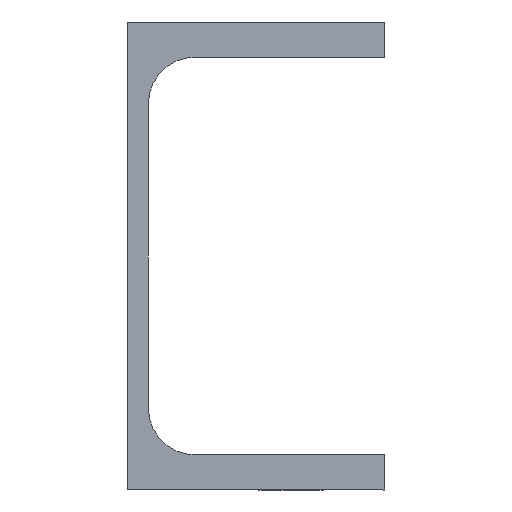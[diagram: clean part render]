
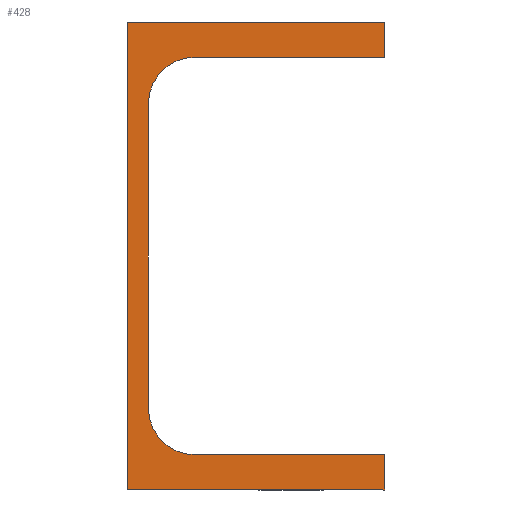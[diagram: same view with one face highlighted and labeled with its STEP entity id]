
A CAD part, left-side view. The second image highlights one B-rep face of the part: STEP entity #428.
In plain terms, the highlighted planar face has unit normal (-1, 0, 0).
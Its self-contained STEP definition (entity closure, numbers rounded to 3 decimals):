
#42 = ORIENTED_EDGE ( 'NONE', *, *, #3356, .T. ) ;
#76 = VERTEX_POINT ( 'NONE', #1217 ) ;
#135 = CARTESIAN_POINT ( 'NONE',  ( -55., 1945., 2290. ) ) ;
#176 = VERTEX_POINT ( 'NONE', #2306 ) ;
#178 = EDGE_CURVE ( 'NONE', #3060, #176, #196, .T. ) ;
#196 = LINE ( 'NONE', #3713, #4438 ) ;
#255 = LINE ( 'NONE', #1227, #2134 ) ;
#338 = ORIENTED_EDGE ( 'NONE', *, *, #1102, .T. ) ;
#349 = CARTESIAN_POINT ( 'NONE',  ( -55., 1985.5, 2372.5 ) ) ;
#428 = ADVANCED_FACE ( 'NONE', ( #4398 ), #4104, .T. ) ;
#512 = CARTESIAN_POINT ( 'NONE',  ( -55., 1945., 2297.5 ) ) ;
#585 = DIRECTION ( 'NONE',  ( 0., 1., 0. ) ) ;
#778 = VERTEX_POINT ( 'NONE', #4027 ) ;
#809 = CIRCLE ( 'NONE', #4011, 10. ) ;
#909 = CARTESIAN_POINT ( 'NONE',  ( -55., -32.5, 2385. ) ) ;
#949 = LINE ( 'NONE', #512, #1547 ) ;
#1049 = VERTEX_POINT ( 'NONE', #1364 ) ;
#1064 = VERTEX_POINT ( 'NONE', #1708 ) ;
#1102 = EDGE_CURVE ( 'NONE', #3202, #3060, #1243, .T. ) ;
#1108 = EDGE_CURVE ( 'NONE', #76, #1049, #1833, .T. ) ;
#1211 = DIRECTION ( 'NONE',  ( -1., 0., 0. ) ) ;
#1217 = CARTESIAN_POINT ( 'NONE',  ( -55., 1985.5, 2297.5 ) ) ;
#1227 = CARTESIAN_POINT ( 'NONE',  ( -55., 1995.5, 2307.5 ) ) ;
#1243 = LINE ( 'NONE', #1906, #3031 ) ;
#1273 = CARTESIAN_POINT ( 'NONE',  ( -55., 2000., 2290. ) ) ;
#1274 = ORIENTED_EDGE ( 'NONE', *, *, #2567, .T. ) ;
#1364 = CARTESIAN_POINT ( 'NONE',  ( -55., 1995.5, 2307.5 ) ) ;
#1547 = VECTOR ( 'NONE', #1619, 1000. ) ;
#1583 = CARTESIAN_POINT ( 'NONE',  ( -55., 1985.5, 2307.5 ) ) ;
#1619 = DIRECTION ( 'NONE',  ( 0., 1., 0. ) ) ;
#1636 = LINE ( 'NONE', #1273, #2365 ) ;
#1662 = CARTESIAN_POINT ( 'NONE',  ( -55., 1945., 2382.5 ) ) ;
#1708 = CARTESIAN_POINT ( 'NONE',  ( -55., 1995.5, 2372.5 ) ) ;
#1732 = DIRECTION ( 'NONE',  ( 1., 0., 0. ) ) ;
#1795 = ORIENTED_EDGE ( 'NONE', *, *, #1108, .T. ) ;
#1833 = CIRCLE ( 'NONE', #3851, 10. ) ;
#1887 = EDGE_LOOP ( 'NONE', ( #2386, #2892, #42, #1274, #4290, #2666, #1795, #3988, #4012, #338 ) ) ;
#1898 = EDGE_CURVE ( 'NONE', #176, #2498, #2343, .T. ) ;
#1906 = CARTESIAN_POINT ( 'NONE',  ( -55., 1985.5, 2382.5 ) ) ;
#1915 = VECTOR ( 'NONE', #2184, 1000. ) ;
#2092 = EDGE_CURVE ( 'NONE', #1049, #1064, #255, .T. ) ;
#2134 = VECTOR ( 'NONE', #3018, 1000. ) ;
#2184 = DIRECTION ( 'NONE',  ( 0., 0., 1. ) ) ;
#2306 = CARTESIAN_POINT ( 'NONE',  ( -55., 1945., 2390. ) ) ;
#2317 = CARTESIAN_POINT ( 'NONE',  ( -55., 1945., 2297.5 ) ) ;
#2343 = LINE ( 'NONE', #3053, #4080 ) ;
#2346 = DIRECTION ( 'NONE',  ( 0., 0., 1. ) ) ;
#2365 = VECTOR ( 'NONE', #2715, 1000. ) ;
#2386 = ORIENTED_EDGE ( 'NONE', *, *, #178, .T. ) ;
#2451 = CARTESIAN_POINT ( 'NONE',  ( -55., 1985.5, 2382.5 ) ) ;
#2498 = VERTEX_POINT ( 'NONE', #2966 ) ;
#2567 = EDGE_CURVE ( 'NONE', #778, #3017, #1636, .T. ) ;
#2583 = AXIS2_PLACEMENT_3D ( 'NONE', #909, #1211, #2346 ) ;
#2618 = DIRECTION ( 'NONE',  ( 1., 0., 0. ) ) ;
#2666 = ORIENTED_EDGE ( 'NONE', *, *, #4103, .T. ) ;
#2715 = DIRECTION ( 'NONE',  ( 0., -1., 0. ) ) ;
#2892 = ORIENTED_EDGE ( 'NONE', *, *, #1898, .T. ) ;
#2932 = DIRECTION ( 'NONE',  ( 0., 0., -1. ) ) ;
#2966 = CARTESIAN_POINT ( 'NONE',  ( -55., 2000., 2390. ) ) ;
#2981 = CARTESIAN_POINT ( 'NONE',  ( -55., 2000., 2390. ) ) ;
#3017 = VERTEX_POINT ( 'NONE', #135 ) ;
#3018 = DIRECTION ( 'NONE',  ( 0., 0., 1. ) ) ;
#3031 = VECTOR ( 'NONE', #4088, 1000. ) ;
#3053 = CARTESIAN_POINT ( 'NONE',  ( -55., 1945., 2390. ) ) ;
#3060 = VERTEX_POINT ( 'NONE', #1662 ) ;
#3087 = VERTEX_POINT ( 'NONE', #2317 ) ;
#3162 = DIRECTION ( 'NONE',  ( 0., 0., 1. ) ) ;
#3202 = VERTEX_POINT ( 'NONE', #2451 ) ;
#3303 = EDGE_CURVE ( 'NONE', #3017, #3087, #3709, .T. ) ;
#3342 = DIRECTION ( 'NONE',  ( 0., 0., 1. ) ) ;
#3356 = EDGE_CURVE ( 'NONE', #2498, #778, #3616, .T. ) ;
#3616 = LINE ( 'NONE', #2981, #3794 ) ;
#3684 = CARTESIAN_POINT ( 'NONE',  ( -55., 1945., 2290. ) ) ;
#3709 = LINE ( 'NONE', #3684, #1915 ) ;
#3713 = CARTESIAN_POINT ( 'NONE',  ( -55., 1945., 2382.5 ) ) ;
#3756 = DIRECTION ( 'NONE',  ( 0., 0., 1. ) ) ;
#3794 = VECTOR ( 'NONE', #2932, 1000. ) ;
#3851 = AXIS2_PLACEMENT_3D ( 'NONE', #1583, #2618, #3342 ) ;
#3927 = EDGE_CURVE ( 'NONE', #1064, #3202, #809, .T. ) ;
#3988 = ORIENTED_EDGE ( 'NONE', *, *, #2092, .T. ) ;
#4011 = AXIS2_PLACEMENT_3D ( 'NONE', #349, #1732, #3162 ) ;
#4012 = ORIENTED_EDGE ( 'NONE', *, *, #3927, .T. ) ;
#4027 = CARTESIAN_POINT ( 'NONE',  ( -55., 2000., 2290. ) ) ;
#4080 = VECTOR ( 'NONE', #585, 1000. ) ;
#4088 = DIRECTION ( 'NONE',  ( 0., -1., 0. ) ) ;
#4103 = EDGE_CURVE ( 'NONE', #3087, #76, #949, .T. ) ;
#4104 = PLANE ( 'NONE',  #2583 ) ;
#4290 = ORIENTED_EDGE ( 'NONE', *, *, #3303, .T. ) ;
#4398 = FACE_OUTER_BOUND ( 'NONE', #1887, .T. ) ;
#4438 = VECTOR ( 'NONE', #3756, 1000. ) ;
